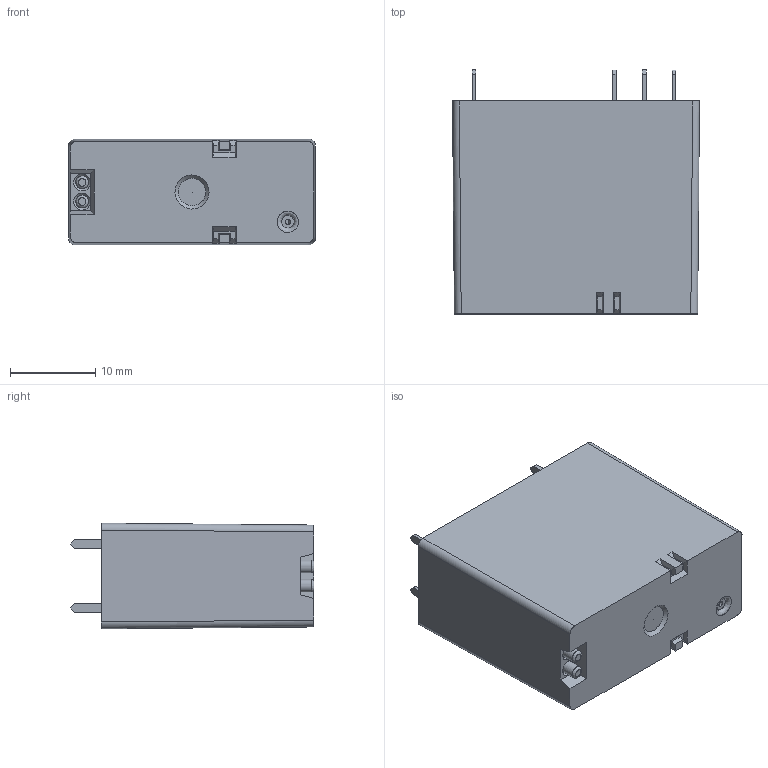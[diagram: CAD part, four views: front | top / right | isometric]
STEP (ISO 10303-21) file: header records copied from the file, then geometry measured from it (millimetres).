
FILE_DESCRIPTION(('STEP AP214'),'2;1');
FILE_NAME('40_31 o serie 42 complessivo 31.stp','2011-08-30T15:37:22',(''),(''),'2007.1.106','THINKDESIGN','');
FILE_SCHEMA(('AUTOMOTIVE_DESIGN'));
Length unit declared in the file: millimetre
Products named in the file (1): None
Bounding box: 29 x 28.65 x 12.4 mm (x, y, z)
Surface area: 4581.4 mm2 (no closed solid volume)
Topology: 0 solids, 0 shells, 125 faces, 656 edges, 638 vertices
Faces by surface type: plane 96, bspline 22, cylinder 7
Full cylindrical faces by diameter (mm): 0.6 x1, 1.5 x2
Entity records: 7324 total; most frequent: CARTESIAN_POINT 2553, DIRECTION 764, COMPOSITE_CURVE_SEGMENT 655, VECTOR 546, LINE 546, TRIMMED_CURVE 546, OUTER_BOUNDARY_CURVE 125, CURVE_BOUNDED_SURFACE 125
